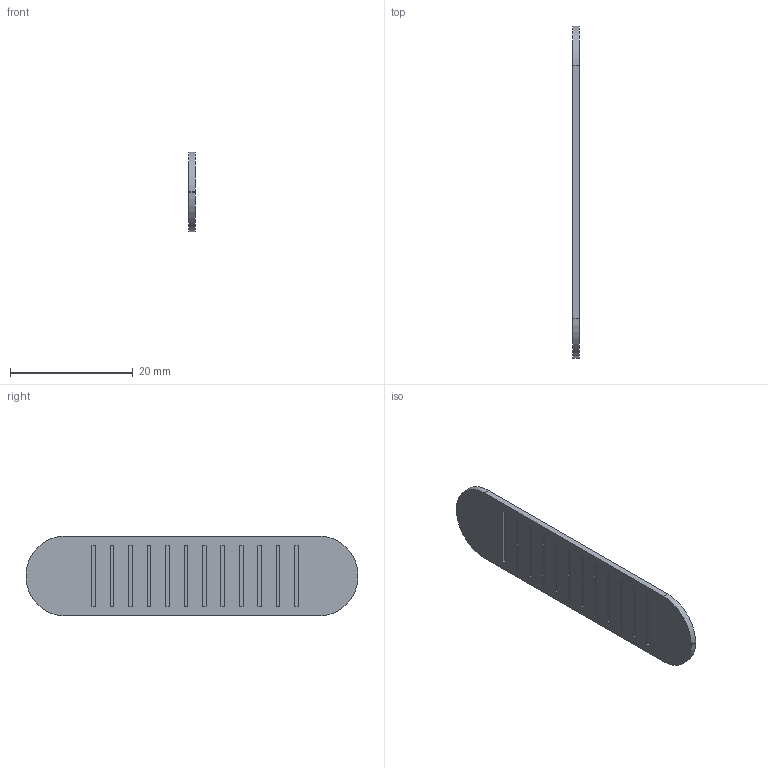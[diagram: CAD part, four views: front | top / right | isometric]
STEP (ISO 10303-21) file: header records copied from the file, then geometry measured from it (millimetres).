
FILE_DESCRIPTION(('Open CASCADE Model'),'2;1');
FILE_NAME('Open CASCADE Shape Model','2026-09-06T11:30:36',('Author'),( 'Open CASCADE'),'Open CASCADE STEP processor 7.7','Open CASCADE 7.7' ,'Unknown');
FILE_SCHEMA(('AUTOMOTIVE_DESIGN { 1 0 10303 214 1 1 1 1 }'));
Length unit declared in the file: millimetre
Products named in the file (1): Open CASCADE STEP translator 7.7 6
Bounding box: 1 x 54 x 13 mm (x, y, z)
Volume: 641.6 mm3; surface area: 1545.7 mm2
Topology: 1 solids, 1 shells, 70 faces, 168 edges, 112 vertices
Faces by surface type: plane 66, cylinder 4
Entity records: 4206 total; most frequent: CARTESIAN_POINT 711, DIRECTION 650, LINE 488, VECTOR 488, ORIENTED_EDGE 336, PCURVE 336, DEFINITIONAL_REPRESENTATION 336, EDGE_CURVE 168
